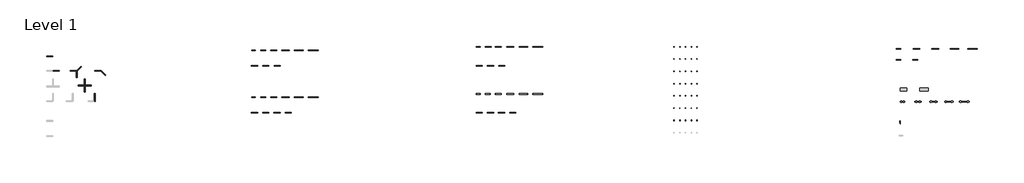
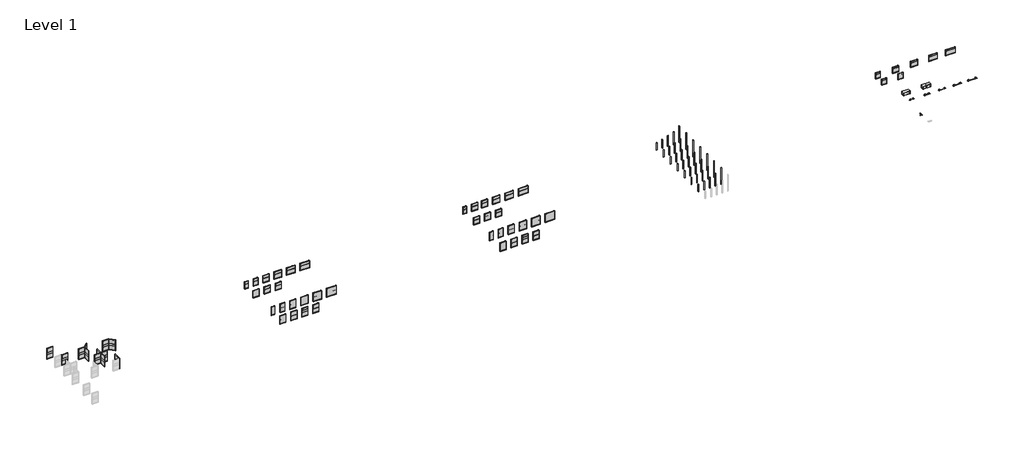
# One storey, part 3 of 3: 105 furniture elements.
"""IFC4 building model written with IfcOpenShell, lengths in millimetres."""

from ifc_helpers import new_model, si_unit, origin, place, context, project, spatial, transform, mapped, element, save
from components import furniture_18w_7ac7aad4, furniture_18w_59cc3c81, furniture_24w_fa96f4db, furniture_24w_426d5895, furniture_24w_0a600c24, furniture_24w_086fed48, furniture_24w_bf8f6a09, furniture_24w_27d8c9a8, furniture_30w_7d468a4d, furniture_30w_9d0055d7, furniture_30w_1f90e741, furniture_30w_02666bc1, furniture_30w_2dfa0810, furniture_30w_8b2cd19e, furniture_30w_2cda6988, furniture_30w_479ce9d4, furniture_30w_9c4a72f9, furniture_30w_512980de, furniture_30w_19db9eaf, furniture_30w_7b13c61c, furniture_30w_fa20d450, furniture_30w_daa77d19, furniture_30w_12dec47a, furniture_33w_c82f8737, furniture_36w_0b321206, furniture_36w_5fb26eae, furniture_36w_8ec4d774, furniture_36w_22e25451, furniture_38h_da254d0d, furniture_38h_7f22f2ad, furniture_38h_e55c0ff0, furniture_38h_13bdd9f9, furniture_38h_bad47e70, furniture_38h_panel_24w_276d43ed, furniture_38h_panel_30w_608f1e22, furniture_38h_panel_36w_7835546e, furniture_38h_panel_42w_ce5f0368, furniture_38h_panel_48w_99b88fe5, furniture_39w_d34182e1, furniture_42w_c59e6604, furniture_42w_ce28b0d0, furniture_42w_d7db1be3, furniture_42w_982e6336, furniture_45h_ac7019bf, furniture_45h_0da96548, furniture_45h_6bc77c7a, furniture_45h_3cfd8690, furniture_45h_894241af, furniture_48w_8803d16e, furniture_48w_716ff22a, furniture_48w_e3be6d56, furniture_55h_e53aab7c, furniture_55h_f8dee131, furniture_55h_7e80d0b0, furniture_55h_62b237f5, furniture_55h_673f513a, furniture_55h_9c691605, furniture_65h_424c1f49, furniture_65h_35de318b, furniture_65h_a30b0fb3, furniture_65h_c9d4cf2e, furniture_65h_cf35a967, furniture_86h_a120e0e9, furniture_86h_3fd3b045, furniture_86h_737b5e99, furniture_86h_5dbdb53e, furniture_86h_f72391fd, on_module_cantilever_b85a96c2

model = new_model("IFC4")

# Units and contexts
model_context = context("Model", 3, world=origin())
ifc_project = project(units=[si_unit("LENGTHUNIT", "METRE", prefix="MILLI")], contexts=[model_context])

# Site, building, storey
site = spatial("IfcSite", under=ifc_project)
building = spatial("IfcBuilding", under=site)
storey = spatial("IfcBuildingStorey", under=building, Name="Level 1", Elevation=0.0)

# Furniture
placement = place(None, origin())
furniture_18w_shape = furniture_18w_7ac7aad4(model_context)
element("IfcFurniture", 1, ObjectType="Steelcase - Montage - Frame - 38H - Enhanced Monolithic - Base Cavity : 18W", at=placement, inside=storey, context=model_context, shape_type="MappedRepresentation", body=[
    mapped(furniture_18w_shape, transform((12176.3660688, 9286.8314495, 0.0), x_axis=(1.0, 0.0, 0.0), y_axis=(0.0, 1.0, 0.0), z_axis=(0.0, 0.0, 1.0))),
])
furniture_18w_2_shape = furniture_18w_59cc3c81(model_context)
element("IfcFurniture", 2, ObjectType="Steelcase - Montage - Frame - 45H - Enhanced Monolithic - Base Cavity : 18W", at=placement, inside=storey, context=model_context, shape_type="MappedRepresentation", body=[
    mapped(furniture_18w_2_shape, transform((12176.3660688, 3466.1588827, 0.0), x_axis=(1.0, 0.0, 0.0), y_axis=(0.0, 1.0, 0.0), z_axis=(0.0, 0.0, 1.0))),
])
element("IfcFurniture", 3, ObjectType="Steelcase - Montage - Frame - 38H - Enhanced Standard - Base Cavity : 18W", at=placement, inside=storey, context=model_context, shape_type="MappedRepresentation", body=[
    mapped(furniture_18w_shape, transform((39962.2165559, 9693.2314495, 0.0), x_axis=(1.0, 0.0, 0.0), y_axis=(0.0, 1.0, 0.0), z_axis=(0.0, 0.0, 1.0))),
])
element("IfcFurniture", 4, ObjectType="Steelcase - Montage - Frame - 45H - Enhanced Standard - Base Cavity : 18W", at=placement, inside=storey, context=model_context, shape_type="MappedRepresentation", body=[
    mapped(furniture_18w_2_shape, transform((39962.2165559, 3872.5588827, 0.0), x_axis=(1.0, 0.0, 0.0), y_axis=(0.0, 1.0, 0.0), z_axis=(0.0, 0.0, 1.0))),
])
furniture_24w_shape = furniture_24w_fa96f4db(model_context)
element("IfcFurniture", 5, ObjectType="Steelcase - Montage - Frame - 31H - Enhanced Standard - Base Cavity : 24W", at=placement, inside=storey, context=model_context, shape_type="MappedRepresentation", body=[
    mapped(furniture_24w_shape, transform((93954.9127957, 8116.707023, 0.0), x_axis=(1.0, 0.0, 0.0), y_axis=(0.0, 1.0, 0.0), z_axis=(0.0, 0.0, 1.0))),
])
furniture_24w_2_shape = furniture_24w_426d5895(model_context)
element("IfcFurniture", 6, ObjectType="Steelcase - Montage - Frame - 38H - Enhanced Standard - Base Cavity : 24W", at=placement, inside=storey, context=model_context, shape_type="MappedRepresentation", body=[
    mapped(furniture_24w_2_shape, transform((41054.4165559, 9693.2314495, 0.0), x_axis=(1.0, 0.0, 0.0), y_axis=(0.0, 1.0, 0.0), z_axis=(0.0, 0.0, 1.0))),
])
furniture_24w_3_shape = furniture_24w_0a600c24(model_context)
element("IfcFurniture", 7, ObjectType="Steelcase - Montage - Frame - 38H - Enhanced Monolithic - Base Cavity : 24W", at=placement, inside=storey, context=model_context, shape_type="MappedRepresentation", body=[
    mapped(furniture_24w_3_shape, transform((13268.5660688, 9286.8314495, 0.0), x_axis=(1.0, 0.0, 0.0), y_axis=(0.0, 1.0, 0.0), z_axis=(0.0, 0.0, 1.0))),
])
furniture_24w_4_shape = furniture_24w_086fed48(model_context)
element("IfcFurniture", 8, ObjectType="Steelcase - Montage - Frame - 45H - Enhanced Monolithic - Base Cavity : 24W", at=placement, inside=storey, context=model_context, shape_type="MappedRepresentation", body=[
    mapped(furniture_24w_4_shape, transform((13268.5660688, 3466.1588827, 0.0), x_axis=(1.0, 0.0, 0.0), y_axis=(0.0, 1.0, 0.0), z_axis=(0.0, 0.0, 1.0))),
])
furniture_24w_5_shape = furniture_24w_bf8f6a09(model_context)
element("IfcFurniture", 9, ObjectType="Steelcase - Montage - Frame - 55H - Enhanced Monolithic - Base Cavity : 24W", at=placement, inside=storey, context=model_context, shape_type="MappedRepresentation", body=[
    mapped(furniture_24w_5_shape, transform((-7250.2163448, 2998.6070245, 0.0), x_axis=(0.0, 1.0, 0.0), y_axis=(-1.0, 0.0, 0.0), z_axis=(0.0, 0.0, 1.0))),
])
element("IfcFurniture", 10, ObjectType="Steelcase - Montage - Frame - 45H - Enhanced Standard - Base Cavity : 24W", at=placement, inside=storey, context=model_context, shape_type="MappedRepresentation", body=[
    mapped(furniture_24w_4_shape, transform((41054.4165559, 3872.5588827, 0.0), x_axis=(1.0, 0.0, 0.0), y_axis=(0.0, 1.0, 0.0), z_axis=(0.0, 0.0, 1.0))),
])
furniture_24w_6_shape = furniture_24w_27d8c9a8(model_context)
element("IfcFurniture", 11, ObjectType="Steelcase - Montage - Frame - 31H - Enhanced Standard - Base Cavity : 24W", at=placement, inside=storey, context=model_context, shape_type="MappedRepresentation", body=[
    mapped(furniture_24w_6_shape, transform((91872.1127957, 9462.907023, 0.0), x_axis=(1.0, 0.0, 0.0), y_axis=(0.0, 1.0, 0.0), z_axis=(0.0, 0.0, 1.0))),
])
element("IfcFurniture", 12, ObjectType="Steelcase - Montage - Frame - 31H - Enhanced Standard - Base Cavity : 24W", at=placement, inside=storey, context=model_context, shape_type="MappedRepresentation", body=[
    mapped(furniture_24w_6_shape, transform((91872.1127957, 8116.707023, 0.0), x_axis=(1.0, 0.0, 0.0), y_axis=(0.0, 1.0, 0.0), z_axis=(0.0, 0.0, 1.0))),
])
furniture_30w_shape = furniture_30w_7d468a4d(model_context)
element("IfcFurniture", 13, ObjectType="Steelcase - Montage - Frame - 45H - Enhanced Monolithic - Base Cavity : 30W", at=placement, inside=storey, context=model_context, shape_type="MappedRepresentation", body=[
    mapped(furniture_30w_shape, transform((14513.1660688, 3466.1588827, 0.0), x_axis=(1.0, 0.0, 0.0), y_axis=(0.0, 1.0, 0.0), z_axis=(0.0, 0.0, 1.0))),
])
element("IfcFurniture", 14, ObjectType="Steelcase - Montage - Frame - 45H - Enhanced Monolithic - Base Cavity : 30W", at=placement, inside=storey, context=model_context, shape_type="MappedRepresentation", body=[
    mapped(furniture_30w_shape, transform((12144.4251783, 1547.9903308, 0.0), x_axis=(1.0, 0.0, 0.0), y_axis=(0.0, 1.0, 0.0), z_axis=(0.0, 0.0, 1.0))),
])
furniture_30w_2_shape = furniture_30w_9d0055d7(model_context)
element("IfcFurniture", 15, ObjectType="Steelcase - Montage - Frame - 45H - Enhanced Monolithic - Base Cavity : 30W", at=placement, inside=storey, context=model_context, shape_type="MappedRepresentation", body=[
    mapped(furniture_30w_2_shape, transform((14923.8376088, 1547.9903308, 0.0), x_axis=(1.0, 0.0, 0.0), y_axis=(0.0, 1.0, 0.0), z_axis=(0.0, 0.0, 1.0))),
])
furniture_30w_3_shape = furniture_30w_1f90e741(model_context)
element("IfcFurniture", 16, ObjectType="Steelcase - Montage - Frame - 45H - Enhanced Monolithic - Base Cavity : 30W", at=placement, inside=storey, context=model_context, shape_type="MappedRepresentation", body=[
    mapped(furniture_30w_3_shape, transform((16306.2500393, 1547.9903308, 0.0), x_axis=(1.0, 0.0, 0.0), y_axis=(0.0, 1.0, 0.0), z_axis=(0.0, 0.0, 1.0))),
])
furniture_30w_4_shape = furniture_30w_02666bc1(model_context)
element("IfcFurniture", 17, ObjectType="Steelcase - Montage - Frame - 38H - Enhanced Monolithic - Base Cavity : 30W", at=placement, inside=storey, context=model_context, shape_type="MappedRepresentation", body=[
    mapped(furniture_30w_4_shape, transform((12144.4251783, 7368.6628976, 0.0), x_axis=(1.0, 0.0, 0.0), y_axis=(0.0, 1.0, 0.0), z_axis=(0.0, 0.0, 1.0))),
])
furniture_30w_5_shape = furniture_30w_2dfa0810(model_context)
element("IfcFurniture", 18, ObjectType="Steelcase - Montage - Frame - 38H - Enhanced Monolithic - Base Cavity : 30W", at=placement, inside=storey, context=model_context, shape_type="MappedRepresentation", body=[
    mapped(furniture_30w_5_shape, transform((13541.4251783, 7368.6628976, 0.0), x_axis=(1.0, 0.0, 0.0), y_axis=(0.0, 1.0, 0.0), z_axis=(0.0, 0.0, 1.0))),
])
furniture_30w_6_shape = furniture_30w_8b2cd19e(model_context)
element("IfcFurniture", 19, ObjectType="Steelcase - Montage - Frame - 38H - Enhanced Monolithic - Base Cavity : 30W", at=placement, inside=storey, context=model_context, shape_type="MappedRepresentation", body=[
    mapped(furniture_30w_6_shape, transform((14938.4251783, 7368.6628976, 0.0), x_axis=(1.0, 0.0, 0.0), y_axis=(0.0, 1.0, 0.0), z_axis=(0.0, 0.0, 1.0))),
])
furniture_30w_7_shape = furniture_30w_2cda6988(model_context)
element("IfcFurniture", 20, ObjectType="Steelcase - Montage - Frame - 38H - Enhanced Standard - Base Cavity : 30W", at=placement, inside=storey, context=model_context, shape_type="MappedRepresentation", body=[
    mapped(furniture_30w_7_shape, transform((39930.2756654, 7368.6628976, 0.0), x_axis=(1.0, 0.0, 0.0), y_axis=(0.0, 1.0, 0.0), z_axis=(0.0, 0.0, 1.0))),
])
furniture_30w_8_shape = furniture_30w_479ce9d4(model_context)
element("IfcFurniture", 21, ObjectType="Steelcase - Montage - Frame - 38H - Enhanced Standard - Base Cavity : 30W", at=placement, inside=storey, context=model_context, shape_type="MappedRepresentation", body=[
    mapped(furniture_30w_8_shape, transform((41327.2756654, 7368.6628976, 0.0), x_axis=(1.0, 0.0, 0.0), y_axis=(0.0, 1.0, 0.0), z_axis=(0.0, 0.0, 1.0))),
])
element("IfcFurniture", 22, ObjectType="Steelcase - Montage - Frame - 38H - Enhanced Standard - Base Cavity : 30W", at=placement, inside=storey, context=model_context, shape_type="MappedRepresentation", body=[
    mapped(furniture_24w_2_shape, transform((42299.0165559, 9693.2314495, 0.0), x_axis=(1.0, 0.0, 0.0), y_axis=(0.0, 1.0, 0.0), z_axis=(0.0, 0.0, 1.0))),
])
element("IfcFurniture", 23, ObjectType="Steelcase - Montage - Frame - 45H - Enhanced Standard - Base Cavity : 30W", at=placement, inside=storey, context=model_context, shape_type="MappedRepresentation", body=[
    mapped(furniture_30w_shape, transform((39930.2756654, 1547.9903308, 0.0), x_axis=(1.0, 0.0, 0.0), y_axis=(0.0, 1.0, 0.0), z_axis=(0.0, 0.0, 1.0))),
])
element("IfcFurniture", 24, ObjectType="Steelcase - Montage - Frame - 45H - Enhanced Standard - Base Cavity : 30W", at=placement, inside=storey, context=model_context, shape_type="MappedRepresentation", body=[
    mapped(furniture_30w_shape, transform((42299.0165559, 3872.5588827, 0.0), x_axis=(1.0, 0.0, 0.0), y_axis=(0.0, 1.0, 0.0), z_axis=(0.0, 0.0, 1.0))),
])
furniture_30w_9_shape = furniture_30w_9c4a72f9(model_context)
element("IfcFurniture", 25, ObjectType="Steelcase - Montage - Frame - 45H - Enhanced Standard - Base Cavity : 30W", at=placement, inside=storey, context=model_context, shape_type="MappedRepresentation", body=[
    mapped(furniture_30w_9_shape, transform((41327.2756654, 1547.9903308, 0.0), x_axis=(1.0, 0.0, 0.0), y_axis=(0.0, 1.0, 0.0), z_axis=(0.0, 0.0, 1.0))),
])
furniture_30w_10_shape = furniture_30w_512980de(model_context)
element("IfcFurniture", 26, ObjectType="Steelcase - Montage - Frame - 45H - Enhanced Standard - Base Cavity : 30W", at=placement, inside=storey, context=model_context, shape_type="MappedRepresentation", body=[
    mapped(furniture_30w_10_shape, transform((42695.7006654, 1547.9903308, 0.0), x_axis=(1.0, 0.0, 0.0), y_axis=(0.0, 1.0, 0.0), z_axis=(0.0, 0.0, 1.0))),
])
element("IfcFurniture", 27, ObjectType="Steelcase - Montage - Frame - 45H - Enhanced Standard - Base Cavity : 30W", at=placement, inside=storey, context=model_context, shape_type="MappedRepresentation", body=[
    mapped(furniture_30w_3_shape, transform((44092.7006654, 1547.9903308, 0.0), x_axis=(1.0, 0.0, 0.0), y_axis=(0.0, 1.0, 0.0), z_axis=(0.0, 0.0, 1.0))),
])
furniture_30w_11_shape = furniture_30w_19db9eaf(model_context)
element("IfcFurniture", 28, ObjectType="Steelcase - Montage - Frame - 38H - Enhanced Monolithic - Base Cavity : 30W", at=placement, inside=storey, context=model_context, shape_type="MappedRepresentation", body=[
    mapped(furniture_30w_11_shape, transform((14513.1660688, 9286.8314495, 0.0), x_axis=(1.0, 0.0, 0.0), y_axis=(0.0, 1.0, 0.0), z_axis=(0.0, 0.0, 1.0))),
])
furniture_30w_12_shape = furniture_30w_7b13c61c(model_context)
element("IfcFurniture", 29, ObjectType="Steelcase - Montage - Frame - 45H - Enhanced Monolithic - Base Cavity : 30W", at=placement, inside=storey, context=model_context, shape_type="MappedRepresentation", body=[
    mapped(furniture_30w_12_shape, transform((13541.4251783, 1547.9903308, 0.0), x_axis=(1.0, 0.0, 0.0), y_axis=(0.0, 1.0, 0.0), z_axis=(0.0, 0.0, 1.0))),
])
furniture_30w_13_shape = furniture_30w_fa20d450(model_context)
element("IfcFurniture", 30, ObjectType="Steelcase - Montage - Frame - 55H - Enhanced Monolithic - Base Cavity : 30W", at=placement, inside=storey, context=model_context, shape_type="MappedRepresentation", body=[
    mapped(furniture_30w_13_shape, transform((-12368.3163392, 6719.707023, 0.0), x_axis=(1.0, 0.0, 0.0), y_axis=(0.0, 1.0, 0.0), z_axis=(0.0, 0.0, 1.0))),
])
element("IfcFurniture", 31, ObjectType="Steelcase - Montage - Frame - 55H - Enhanced Monolithic - Base Cavity : 30W", at=placement, inside=storey, context=model_context, shape_type="MappedRepresentation", body=[
    mapped(furniture_30w_13_shape, transform((-10265.7679769, 6719.707023, 0.0), x_axis=(1.0, 0.0, 0.0), y_axis=(0.0, 1.0, 0.0), z_axis=(0.0, 0.0, 1.0))),
])
element("IfcFurniture", 32, ObjectType="Steelcase - Montage - Frame - 55H - Enhanced Monolithic - Base Cavity : 30W", at=placement, inside=storey, context=model_context, shape_type="MappedRepresentation", body=[
    mapped(furniture_30w_13_shape, transform((-9465.6679784, 5919.6043933, 0.0), x_axis=(0.0, 1.0, 0.0), y_axis=(-1.0, 0.0, 0.0), z_axis=(0.0, 0.0, 1.0))),
])
element("IfcFurniture", 33, ObjectType="Steelcase - Montage - Frame - 55H - Enhanced Monolithic - Base Cavity : 30W", at=placement, inside=storey, context=model_context, shape_type="MappedRepresentation", body=[
    mapped(furniture_30w_13_shape, transform((-9454.6003521, 6730.8617685, 0.0), x_axis=(0.7071067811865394, 0.7071067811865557, 0.0), y_axis=(-0.7071067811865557, 0.7071067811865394, 0.0), z_axis=(0.0, 0.0, 1.0))),
])
element("IfcFurniture", 34, ObjectType="Steelcase - Montage - Frame - 55H - Enhanced Monolithic - Base Cavity : 30W", at=placement, inside=storey, context=model_context, shape_type="MappedRepresentation", body=[
    mapped(furniture_30w_13_shape, transform((-9275.1706051, 4923.6475277, 0.0), x_axis=(1.0, 0.0, 0.0), y_axis=(0.0, 1.0, 0.0), z_axis=(0.0, 0.0, 1.0))),
])
element("IfcFurniture", 35, ObjectType="Steelcase - Montage - Frame - 55H - Enhanced Monolithic - Base Cavity : 30W", at=placement, inside=storey, context=model_context, shape_type="MappedRepresentation", body=[
    mapped(furniture_30w_13_shape, transform((-8475.0706066, 4961.7475292, 0.0), x_axis=(0.0, 1.0, 0.0), y_axis=(-1.0, 0.0, 0.0), z_axis=(0.0, 0.0, 1.0))),
])
element("IfcFurniture", 36, ObjectType="Steelcase - Montage - Frame - 55H - Enhanced Monolithic - Base Cavity : 30W", at=placement, inside=storey, context=model_context, shape_type="MappedRepresentation", body=[
    mapped(furniture_30w_13_shape, transform((-8436.970601, 4923.6475277, 0.0), x_axis=(1.0, 0.0, 0.0), y_axis=(0.0, 1.0, 0.0), z_axis=(0.0, 0.0, 1.0))),
])
element("IfcFurniture", 37, ObjectType="Steelcase - Montage - Frame - 55H - Enhanced Monolithic - Base Cavity : 30W", at=placement, inside=storey, context=model_context, shape_type="MappedRepresentation", body=[
    mapped(furniture_30w_13_shape, transform((-8475.0706066, 4123.5475292, 0.0), x_axis=(0.0, 1.0, 0.0), y_axis=(-1.0, 0.0, 0.0), z_axis=(0.0, 0.0, 1.0))),
])
element("IfcFurniture", 38, ObjectType="Steelcase - Montage - Frame - 55H - Enhanced Monolithic - Base Cavity : 30W", at=placement, inside=storey, context=model_context, shape_type="MappedRepresentation", body=[
    mapped(furniture_30w_13_shape, transform((-13206.5163433, 8548.507023, 0.0), x_axis=(1.0, 0.0, 0.0), y_axis=(0.0, 1.0, 0.0), z_axis=(0.0, 0.0, 1.0))),
])
element("IfcFurniture", 39, ObjectType="Steelcase - Montage - Frame - 55H - Enhanced Monolithic - Base Cavity : 30W", at=placement, inside=storey, context=model_context, shape_type="MappedRepresentation", body=[
    mapped(furniture_30w_13_shape, transform((-7217.7679769, 6719.707023, 0.0), x_axis=(1.0, 0.0, 0.0), y_axis=(0.0, 1.0, 0.0), z_axis=(0.0, 0.0, 1.0))),
])
element("IfcFurniture", 40, ObjectType="Steelcase - Montage - Frame - 55H - Enhanced Monolithic - Base Cavity : 30W", at=placement, inside=storey, context=model_context, shape_type="MappedRepresentation", body=[
    mapped(furniture_30w_13_shape, transform((-5890.0118424, 6169.7297933, 0.0), x_axis=(-0.7071067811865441, 0.707106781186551, 0.0), y_axis=(-0.707106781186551, -0.7071067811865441, 0.0), z_axis=(0.0, 0.0, 1.0))),
])
furniture_30w_14_shape = furniture_30w_daa77d19(model_context)
element("IfcFurniture", 41, ObjectType="Steelcase - Montage - Frame - 38H - Enhanced Standard - Base Cavity : 30W", at=placement, inside=storey, context=model_context, shape_type="MappedRepresentation", body=[
    mapped(furniture_30w_14_shape, transform((42724.2756654, 7368.6628976, 0.0), x_axis=(1.0, 0.0, 0.0), y_axis=(0.0, 1.0, 0.0), z_axis=(0.0, 0.0, 1.0))),
])
furniture_30w_15_shape = furniture_30w_12dec47a(model_context)
element("IfcFurniture", 42, ObjectType="Steelcase - Montage - Frame - 31H - Enhanced Standard - Base Cavity : 30W", at=placement, inside=storey, context=model_context, shape_type="MappedRepresentation", body=[
    mapped(furniture_30w_15_shape, transform((94031.1127957, 9462.907023, 0.0), x_axis=(1.0, 0.0, 0.0), y_axis=(0.0, 1.0, 0.0), z_axis=(0.0, 0.0, 1.0))),
])
furniture_33w_shape = furniture_33w_c82f8737(model_context)
element("IfcFurniture", 43, ObjectType="Steelcase - Montage - Healthcare Components - Patient Chart Box : 33W", at=placement, inside=storey, context=model_context, shape_type="MappedRepresentation", body=[
    mapped(furniture_33w_shape, transform((92295.9117957, 4421.0070245, 0.0), x_axis=(1.0, 0.0, 0.0), y_axis=(0.0, 1.0, 0.0), z_axis=(0.0, 0.0, 1.0))),
])
furniture_36w_shape = furniture_36w_0b321206(model_context)
element("IfcFurniture", 44, ObjectType="Steelcase - Montage - Frame - 38H - Enhanced Monolithic - Base Cavity : 36W", at=placement, inside=storey, context=model_context, shape_type="MappedRepresentation", body=[
    mapped(furniture_36w_shape, transform((15910.1660688, 9286.8314495, 0.0), x_axis=(1.0, 0.0, 0.0), y_axis=(0.0, 1.0, 0.0), z_axis=(0.0, 0.0, 1.0))),
])
furniture_36w_2_shape = furniture_36w_5fb26eae(model_context)
element("IfcFurniture", 45, ObjectType="Steelcase - Montage - Frame - 45H - Enhanced Monolithic - Base Cavity : 36W", at=placement, inside=storey, context=model_context, shape_type="MappedRepresentation", body=[
    mapped(furniture_36w_2_shape, transform((15910.1660688, 3466.1588827, 0.0), x_axis=(1.0, 0.0, 0.0), y_axis=(0.0, 1.0, 0.0), z_axis=(0.0, 0.0, 1.0))),
])
furniture_36w_3_shape = furniture_36w_8ec4d774(model_context)
element("IfcFurniture", 46, ObjectType="Steelcase - Montage - Frame - 38H - Enhanced Standard - Base Cavity : 36W", at=placement, inside=storey, context=model_context, shape_type="MappedRepresentation", body=[
    mapped(furniture_36w_3_shape, transform((43696.0165559, 9693.2314495, 0.0), x_axis=(1.0, 0.0, 0.0), y_axis=(0.0, 1.0, 0.0), z_axis=(0.0, 0.0, 1.0))),
])
element("IfcFurniture", 47, ObjectType="Steelcase - Montage - Frame - 45H - Enhanced Standard - Base Cavity : 36W", at=placement, inside=storey, context=model_context, shape_type="MappedRepresentation", body=[
    mapped(furniture_36w_2_shape, transform((43696.0165559, 3872.5588827, 0.0), x_axis=(1.0, 0.0, 0.0), y_axis=(0.0, 1.0, 0.0), z_axis=(0.0, 0.0, 1.0))),
])
furniture_36w_4_shape = furniture_36w_22e25451(model_context)
element("IfcFurniture", 48, ObjectType="Steelcase - Montage - Frame - 31H - Enhanced Standard - Base Cavity : 36W", at=placement, inside=storey, context=model_context, shape_type="MappedRepresentation", body=[
    mapped(furniture_36w_4_shape, transform((96266.3127957, 9462.907023, 0.0), x_axis=(1.0, 0.0, 0.0), y_axis=(0.0, 1.0, 0.0), z_axis=(0.0, 0.0, 1.0))),
])
furniture_38h_shape = furniture_38h_da254d0d(model_context)
element("IfcFurniture", 49, ObjectType="Steelcase - Montage - Junction - I - Same-Height : 38H", at=placement, inside=storey, context=model_context, shape_type="MappedRepresentation", body=[
    mapped(furniture_38h_shape, transform((63920.4376088, 9729.6070245, 0.0), x_axis=(1.0, 0.0, 0.0), y_axis=(0.0, 1.0, 0.0), z_axis=(0.0, 0.0, 1.0))),
])
furniture_38h_2_shape = furniture_38h_7f22f2ad(model_context)
element("IfcFurniture", 50, ObjectType="Steelcase - Montage - Junction - L Chamfered- Same-Height : 38H", at=placement, inside=storey, context=model_context, shape_type="MappedRepresentation", body=[
    mapped(furniture_38h_2_shape, transform((63920.4376088, 8205.6070245, 0.0), x_axis=(1.0, 0.0, 0.0), y_axis=(0.0, 1.0, 0.0), z_axis=(0.0, 0.0, 1.0))),
])
furniture_38h_3_shape = furniture_38h_e55c0ff0(model_context)
element("IfcFurniture", 51, ObjectType="Steelcase - Montage - Junction - L Radius - Same-Height : 38H", at=placement, inside=storey, context=model_context, shape_type="MappedRepresentation", body=[
    mapped(furniture_38h_3_shape, transform((63920.4376088, 6681.6070245, 0.0), x_axis=(1.0, 0.0, 0.0), y_axis=(0.0, 1.0, 0.0), z_axis=(0.0, 0.0, 1.0))),
])
furniture_38h_4_shape = furniture_38h_13bdd9f9(model_context)
element("IfcFurniture", 52, ObjectType="Steelcase - Montage - Junction - L Square - Same-Height : 38H", at=placement, inside=storey, context=model_context, shape_type="MappedRepresentation", body=[
    mapped(furniture_38h_4_shape, transform((63920.4376088, 5157.6070245, 0.0), x_axis=(1.0, 0.0, 0.0), y_axis=(0.0, 1.0, 0.0), z_axis=(0.0, 0.0, 1.0))),
])
element("IfcFurniture", 53, ObjectType="Steelcase - Montage - Junction - T - Same-Height : 38H", at=placement, inside=storey, context=model_context, shape_type="MappedRepresentation", body=[
    mapped(furniture_38h_shape, transform((63920.4376088, 3633.6070245, 0.0), x_axis=(1.0, 0.0, 0.0), y_axis=(0.0, 1.0, 0.0), z_axis=(0.0, 0.0, 1.0))),
])
furniture_38h_5_shape = furniture_38h_bad47e70(model_context)
element("IfcFurniture", 54, ObjectType="Steelcase - Montage - Junction - V - Same-Height : 38H", at=placement, inside=storey, context=model_context, shape_type="MappedRepresentation", body=[
    mapped(furniture_38h_5_shape, transform((63920.4376088, 2109.6070245, 0.0), x_axis=(1.0, 0.0, 0.0), y_axis=(0.0, 1.0, 0.0), z_axis=(0.0, 0.0, 1.0))),
])
element("IfcFurniture", 55, ObjectType="Steelcase - Montage - Junction - X - Same-Height : 38H", at=placement, inside=storey, context=model_context, shape_type="MappedRepresentation", body=[
    mapped(furniture_38h_shape, transform((63920.4376088, 585.6070245, 0.0), x_axis=(1.0, 0.0, 0.0), y_axis=(0.0, 1.0, 0.0), z_axis=(0.0, 0.0, 1.0))),
])
furniture_38h_panel_24w_shape = furniture_38h_panel_24w_276d43ed(model_context)
element("IfcFurniture", 56, ObjectType="Steelcase - Montage - Healthcare Components - Upmount Transaction Top Brackets : 38H Panel - 24W", at=placement, inside=storey, context=model_context, shape_type="MappedRepresentation", body=[
    mapped(furniture_38h_panel_24w_shape, transform((92480.6879827, 2922.4070245, 0.0), x_axis=(1.0, 0.0, 0.0), y_axis=(0.0, 1.0, 0.0), z_axis=(0.0, 0.0, 1.0))),
])
furniture_38h_panel_30w_shape = furniture_38h_panel_30w_608f1e22(model_context)
element("IfcFurniture", 57, ObjectType="Steelcase - Montage - Healthcare Components - Upmount Transaction Top Brackets : 38H Panel - 30W", at=placement, inside=storey, context=model_context, shape_type="MappedRepresentation", body=[
    mapped(furniture_38h_panel_30w_shape, transform((94323.2127957, 2922.4070245, 0.0), x_axis=(1.0, 0.0, 0.0), y_axis=(0.0, 1.0, 0.0), z_axis=(0.0, 0.0, 1.0))),
])
furniture_38h_panel_36w_shape = furniture_38h_panel_36w_7835546e(model_context)
element("IfcFurniture", 58, ObjectType="Steelcase - Montage - Healthcare Components - Upmount Transaction Top Brackets : 38H Panel - 36W", at=placement, inside=storey, context=model_context, shape_type="MappedRepresentation", body=[
    mapped(furniture_38h_panel_36w_shape, transform((96152.0127957, 2922.4070245, 0.0), x_axis=(1.0, 0.0, 0.0), y_axis=(0.0, 1.0, 0.0), z_axis=(0.0, 0.0, 1.0))),
])
furniture_38h_panel_42w_shape = furniture_38h_panel_42w_ce5f0368(model_context)
element("IfcFurniture", 59, ObjectType="Steelcase - Montage - Healthcare Components - Upmount Transaction Top Brackets : 38H Panel - 42W", at=placement, inside=storey, context=model_context, shape_type="MappedRepresentation", body=[
    mapped(furniture_38h_panel_42w_shape, transform((97980.8127957, 2922.4070245, 0.0), x_axis=(1.0, 0.0, 0.0), y_axis=(0.0, 1.0, 0.0), z_axis=(0.0, 0.0, 1.0))),
])
furniture_38h_panel_48w_shape = furniture_38h_panel_48w_99b88fe5(model_context)
element("IfcFurniture", 60, ObjectType="Steelcase - Montage - Healthcare Components - Upmount Transaction Top Brackets : 38H Panel - 48W", at=placement, inside=storey, context=model_context, shape_type="MappedRepresentation", body=[
    mapped(furniture_38h_panel_48w_shape, transform((99809.6127957, 2922.4070245, 0.0), x_axis=(1.0, 0.0, 0.0), y_axis=(0.0, 1.0, 0.0), z_axis=(0.0, 0.0, 1.0))),
])
furniture_39w_shape = furniture_39w_d34182e1(model_context)
element("IfcFurniture", 61, ObjectType="Steelcase - Montage - Healthcare Components - Patient Chart Box : 39W", at=placement, inside=storey, context=model_context, shape_type="MappedRepresentation", body=[
    mapped(furniture_39w_shape, transform((94835.9117957, 4421.0070245, 0.0), x_axis=(1.0, 0.0, 0.0), y_axis=(0.0, 1.0, 0.0), z_axis=(0.0, 0.0, 1.0))),
])
furniture_42w_shape = furniture_42w_c59e6604(model_context)
element("IfcFurniture", 62, ObjectType="Steelcase - Montage - Frame - 38H - Enhanced Monolithic - Base Cavity : 42W", at=placement, inside=storey, context=model_context, shape_type="MappedRepresentation", body=[
    mapped(furniture_42w_shape, transform((17459.5660688, 9286.8314495, 0.0), x_axis=(1.0, 0.0, 0.0), y_axis=(0.0, 1.0, 0.0), z_axis=(0.0, 0.0, 1.0))),
])
furniture_42w_2_shape = furniture_42w_ce28b0d0(model_context)
element("IfcFurniture", 63, ObjectType="Steelcase - Montage - Frame - 45H - Enhanced Monolithic - Base Cavity : 42W", at=placement, inside=storey, context=model_context, shape_type="MappedRepresentation", body=[
    mapped(furniture_42w_2_shape, transform((17459.5660688, 3466.1588827, 0.0), x_axis=(1.0, 0.0, 0.0), y_axis=(0.0, 1.0, 0.0), z_axis=(0.0, 0.0, 1.0))),
])
furniture_42w_3_shape = furniture_42w_d7db1be3(model_context)
element("IfcFurniture", 64, ObjectType="Steelcase - Montage - Frame - 38H - Enhanced Standard - Base Cavity : 42W", at=placement, inside=storey, context=model_context, shape_type="MappedRepresentation", body=[
    mapped(furniture_42w_3_shape, transform((45245.4165559, 9693.2314495, 0.0), x_axis=(1.0, 0.0, 0.0), y_axis=(0.0, 1.0, 0.0), z_axis=(0.0, 0.0, 1.0))),
])
element("IfcFurniture", 65, ObjectType="Steelcase - Montage - Frame - 45H - Enhanced Standard - Base Cavity : 42W", at=placement, inside=storey, context=model_context, shape_type="MappedRepresentation", body=[
    mapped(furniture_42w_2_shape, transform((45245.4165559, 3872.5588827, 0.0), x_axis=(1.0, 0.0, 0.0), y_axis=(0.0, 1.0, 0.0), z_axis=(0.0, 0.0, 1.0))),
])
furniture_42w_4_shape = furniture_42w_982e6336(model_context)
element("IfcFurniture", 66, ObjectType="Steelcase - Montage - Frame - 31H - Enhanced Standard - Base Cavity : 42W", at=placement, inside=storey, context=model_context, shape_type="MappedRepresentation", body=[
    mapped(furniture_42w_4_shape, transform((98589.3879827, 9462.907023, 0.0), x_axis=(1.0, 0.0, 0.0), y_axis=(0.0, 1.0, 0.0), z_axis=(0.0, 0.0, 1.0))),
])
furniture_45h_shape = furniture_45h_ac7019bf(model_context)
element("IfcFurniture", 67, ObjectType="Steelcase - Montage - Junction - I - Same-Height : 45H", at=placement, inside=storey, context=model_context, shape_type="MappedRepresentation", body=[
    mapped(furniture_45h_shape, transform((64631.6376088, 9729.6070245, 0.0), x_axis=(1.0, 0.0, 0.0), y_axis=(0.0, 1.0, 0.0), z_axis=(0.0, 0.0, 1.0))),
])
furniture_45h_2_shape = furniture_45h_0da96548(model_context)
element("IfcFurniture", 68, ObjectType="Steelcase - Montage - Junction - L Chamfered- Same-Height : 45H", at=placement, inside=storey, context=model_context, shape_type="MappedRepresentation", body=[
    mapped(furniture_45h_2_shape, transform((64631.6376088, 8205.6070245, 0.0), x_axis=(1.0, 0.0, 0.0), y_axis=(0.0, 1.0, 0.0), z_axis=(0.0, 0.0, 1.0))),
])
furniture_45h_3_shape = furniture_45h_6bc77c7a(model_context)
element("IfcFurniture", 69, ObjectType="Steelcase - Montage - Junction - L Radius - Same-Height : 45H", at=placement, inside=storey, context=model_context, shape_type="MappedRepresentation", body=[
    mapped(furniture_45h_3_shape, transform((64631.6376088, 6681.6070245, 0.0), x_axis=(1.0, 0.0, 0.0), y_axis=(0.0, 1.0, 0.0), z_axis=(0.0, 0.0, 1.0))),
])
furniture_45h_4_shape = furniture_45h_3cfd8690(model_context)
element("IfcFurniture", 70, ObjectType="Steelcase - Montage - Junction - L Square - Same-Height : 45H", at=placement, inside=storey, context=model_context, shape_type="MappedRepresentation", body=[
    mapped(furniture_45h_4_shape, transform((64631.6376088, 5157.6070245, 0.0), x_axis=(1.0, 0.0, 0.0), y_axis=(0.0, 1.0, 0.0), z_axis=(0.0, 0.0, 1.0))),
])
element("IfcFurniture", 71, ObjectType="Steelcase - Montage - Junction - T - Same-Height : 45H", at=placement, inside=storey, context=model_context, shape_type="MappedRepresentation", body=[
    mapped(furniture_45h_shape, transform((64631.6376088, 3633.6070245, 0.0), x_axis=(1.0, 0.0, 0.0), y_axis=(0.0, 1.0, 0.0), z_axis=(0.0, 0.0, 1.0))),
])
furniture_45h_5_shape = furniture_45h_894241af(model_context)
element("IfcFurniture", 72, ObjectType="Steelcase - Montage - Junction - V - Same-Height : 45H", at=placement, inside=storey, context=model_context, shape_type="MappedRepresentation", body=[
    mapped(furniture_45h_5_shape, transform((64631.6376088, 2109.6070245, 0.0), x_axis=(1.0, 0.0, 0.0), y_axis=(0.0, 1.0, 0.0), z_axis=(0.0, 0.0, 1.0))),
])
element("IfcFurniture", 73, ObjectType="Steelcase - Montage - Junction - X - Same-Height : 45H", at=placement, inside=storey, context=model_context, shape_type="MappedRepresentation", body=[
    mapped(furniture_45h_shape, transform((64631.6376088, 585.6070245, 0.0), x_axis=(1.0, 0.0, 0.0), y_axis=(0.0, 1.0, 0.0), z_axis=(0.0, 0.0, 1.0))),
])
furniture_48w_shape = furniture_48w_8803d16e(model_context)
element("IfcFurniture", 74, ObjectType="Steelcase - Montage - Frame - 31H - Enhanced Standard - Base Cavity : 48W", at=placement, inside=storey, context=model_context, shape_type="MappedRepresentation", body=[
    mapped(furniture_48w_shape, transform((100722.9879827, 9462.907023, 0.0), x_axis=(1.0, 0.0, 0.0), y_axis=(0.0, 1.0, 0.0), z_axis=(0.0, 0.0, 1.0))),
])
furniture_48w_2_shape = furniture_48w_716ff22a(model_context)
element("IfcFurniture", 75, ObjectType="Steelcase - Montage - Frame - 45H - Enhanced Monolithic - Base Cavity : 48W", at=placement, inside=storey, context=model_context, shape_type="MappedRepresentation", body=[
    mapped(furniture_48w_2_shape, transform((19161.3660688, 3466.1588827, 0.0), x_axis=(1.0, 0.0, 0.0), y_axis=(0.0, 1.0, 0.0), z_axis=(0.0, 0.0, 1.0))),
])
element("IfcFurniture", 76, ObjectType="Steelcase - Montage - Frame - 45H - Enhanced Standard - Base Cavity : 48W", at=placement, inside=storey, context=model_context, shape_type="MappedRepresentation", body=[
    mapped(furniture_48w_2_shape, transform((46947.2165559, 3872.5588827, 0.0), x_axis=(1.0, 0.0, 0.0), y_axis=(0.0, 1.0, 0.0), z_axis=(0.0, 0.0, 1.0))),
])
furniture_48w_3_shape = furniture_48w_e3be6d56(model_context)
element("IfcFurniture", 77, ObjectType="Steelcase - Montage - Frame - 38H - Enhanced Monolithic - Base Cavity : 48W", at=placement, inside=storey, context=model_context, shape_type="MappedRepresentation", body=[
    mapped(furniture_48w_3_shape, transform((19161.3660688, 9286.8314495, 0.0), x_axis=(1.0, 0.0, 0.0), y_axis=(0.0, 1.0, 0.0), z_axis=(0.0, 0.0, 1.0))),
])
element("IfcFurniture", 78, ObjectType="Steelcase - Montage - Frame - 38H - Enhanced Standard - Base Cavity : 48W", at=placement, inside=storey, context=model_context, shape_type="MappedRepresentation", body=[
    mapped(furniture_48w_3_shape, transform((46947.2165559, 9693.2314495, 0.0), x_axis=(1.0, 0.0, 0.0), y_axis=(0.0, 1.0, 0.0), z_axis=(0.0, 0.0, 1.0))),
])
furniture_55h_shape = furniture_55h_e53aab7c(model_context)
element("IfcFurniture", 79, ObjectType="Steelcase - Montage - Junction - I - Same-Height : 55H", at=placement, inside=storey, context=model_context, shape_type="MappedRepresentation", body=[
    mapped(furniture_55h_shape, transform((65342.8376088, 9729.6070245, 0.0), x_axis=(1.0, 0.0, 0.0), y_axis=(0.0, 1.0, 0.0), z_axis=(0.0, 0.0, 1.0))),
])
element("IfcFurniture", 80, ObjectType="Steelcase - Montage - Junction - I - Same-Height : 55H", at=placement, inside=storey, context=model_context, shape_type="MappedRepresentation", body=[
    mapped(furniture_55h_shape, transform((-12901.7163433, 6719.707023, 0.0), x_axis=(1.0, 0.0, 0.0), y_axis=(0.0, 1.0, 0.0), z_axis=(0.0, 0.0, 1.0))),
])
furniture_55h_2_shape = furniture_55h_f8dee131(model_context)
element("IfcFurniture", 81, ObjectType="Steelcase - Montage - Junction - L Chamfered- Same-Height : 55H", at=placement, inside=storey, context=model_context, shape_type="MappedRepresentation", body=[
    mapped(furniture_55h_2_shape, transform((65342.8376088, 8205.6070245, 0.0), x_axis=(1.0, 0.0, 0.0), y_axis=(0.0, 1.0, 0.0), z_axis=(0.0, 0.0, 1.0))),
])
furniture_55h_3_shape = furniture_55h_7e80d0b0(model_context)
element("IfcFurniture", 82, ObjectType="Steelcase - Montage - Junction - L Radius - Same-Height : 55H", at=placement, inside=storey, context=model_context, shape_type="MappedRepresentation", body=[
    mapped(furniture_55h_3_shape, transform((65342.8376088, 6681.6070245, 0.0), x_axis=(1.0, 0.0, 0.0), y_axis=(0.0, 1.0, 0.0), z_axis=(0.0, 0.0, 1.0))),
])
furniture_55h_4_shape = furniture_55h_62b237f5(model_context)
element("IfcFurniture", 83, ObjectType="Steelcase - Montage - Junction - L Square - Same-Height : 55H", at=placement, inside=storey, context=model_context, shape_type="MappedRepresentation", body=[
    mapped(furniture_55h_4_shape, transform((65342.8376088, 5157.6070245, 0.0), x_axis=(1.0, 0.0, 0.0), y_axis=(0.0, 1.0, 0.0), z_axis=(0.0, 0.0, 1.0))),
])
element("IfcFurniture", 84, ObjectType="Steelcase - Montage - Junction - L Square - Same-Height : 55H", at=placement, inside=storey, context=model_context, shape_type="MappedRepresentation", body=[
    mapped(furniture_55h_4_shape, transform((-7745.5163433, 2960.507023, 0.0), x_axis=(1.0, 0.0, 0.0), y_axis=(0.0, 1.0, 0.0), z_axis=(0.0, 0.0, 1.0))),
])
element("IfcFurniture", 85, ObjectType="Steelcase - Montage - Junction - T - Same-Height : 55H", at=placement, inside=storey, context=model_context, shape_type="MappedRepresentation", body=[
    mapped(furniture_55h_shape, transform((65342.8376088, 3633.6070245, 0.0), x_axis=(1.0, 0.0, 0.0), y_axis=(0.0, 1.0, 0.0), z_axis=(0.0, 0.0, 1.0))),
])
furniture_55h_5_shape = furniture_55h_673f513a(model_context)
element("IfcFurniture", 86, ObjectType="Steelcase - Montage - Junction - V - Same-Height : 55H", at=placement, inside=storey, context=model_context, shape_type="MappedRepresentation", body=[
    mapped(furniture_55h_5_shape, transform((65342.8376088, 2109.6070245, 0.0), x_axis=(1.0, 0.0, 0.0), y_axis=(0.0, 1.0, 0.0), z_axis=(0.0, 0.0, 1.0))),
])
element("IfcFurniture", 87, ObjectType="Steelcase - Montage - Junction - V - Same-Height : 55H", at=placement, inside=storey, context=model_context, shape_type="MappedRepresentation", body=[
    mapped(furniture_55h_5_shape, transform((-6912.9679769, 6719.7043948, 0.0), x_axis=(1.0, 0.0, 0.0), y_axis=(0.0, 1.0, 0.0), z_axis=(0.0, 0.0, 1.0))),
])
element("IfcFurniture", 88, ObjectType="Steelcase - Montage - Junction - X - Same-Height : 55H", at=placement, inside=storey, context=model_context, shape_type="MappedRepresentation", body=[
    mapped(furniture_55h_shape, transform((65342.8376088, 585.6070245, 0.0), x_axis=(1.0, 0.0, 0.0), y_axis=(0.0, 1.0, 0.0), z_axis=(0.0, 0.0, 1.0))),
])
element("IfcFurniture", 89, ObjectType="Steelcase - Montage - Junction - X - Same-Height : 55H", at=placement, inside=storey, context=model_context, shape_type="MappedRepresentation", body=[
    mapped(furniture_55h_shape, transform((-8970.3706051, 4923.6475277, 0.0), x_axis=(1.0, 0.0, 0.0), y_axis=(0.0, 1.0, 0.0), z_axis=(0.0, 0.0, 1.0))),
])
furniture_55h_6_shape = furniture_55h_9c691605(model_context)
element("IfcFurniture", 90, ObjectType="Steelcase - Montage - Junction - Y - Same-Height : 55H", at=placement, inside=storey, context=model_context, shape_type="MappedRepresentation", body=[
    mapped(furniture_55h_6_shape, transform((-9960.9679769, 6719.7043948, 0.0), x_axis=(1.0, 0.0, 0.0), y_axis=(0.0, 1.0, 0.0), z_axis=(0.0, 0.0, 1.0))),
])
furniture_65h_shape = furniture_65h_424c1f49(model_context)
element("IfcFurniture", 91, ObjectType="Steelcase - Montage - Junction - I - Same-Height : 65H", at=placement, inside=storey, context=model_context, shape_type="MappedRepresentation", body=[
    mapped(furniture_65h_shape, transform((66054.0376088, 9729.6070245, 0.0), x_axis=(1.0, 0.0, 0.0), y_axis=(0.0, 1.0, 0.0), z_axis=(0.0, 0.0, 1.0))),
])
furniture_65h_2_shape = furniture_65h_35de318b(model_context)
element("IfcFurniture", 92, ObjectType="Steelcase - Montage - Junction - L Chamfered- Same-Height : 65H", at=placement, inside=storey, context=model_context, shape_type="MappedRepresentation", body=[
    mapped(furniture_65h_2_shape, transform((66054.0376088, 8205.6070245, 0.0), x_axis=(1.0, 0.0, 0.0), y_axis=(0.0, 1.0, 0.0), z_axis=(0.0, 0.0, 1.0))),
])
furniture_65h_3_shape = furniture_65h_a30b0fb3(model_context)
element("IfcFurniture", 93, ObjectType="Steelcase - Montage - Junction - L Radius - Same-Height : 65H", at=placement, inside=storey, context=model_context, shape_type="MappedRepresentation", body=[
    mapped(furniture_65h_3_shape, transform((66054.0376088, 6681.6070245, 0.0), x_axis=(1.0, 0.0, 0.0), y_axis=(0.0, 1.0, 0.0), z_axis=(0.0, 0.0, 1.0))),
])
furniture_65h_4_shape = furniture_65h_c9d4cf2e(model_context)
element("IfcFurniture", 94, ObjectType="Steelcase - Montage - Junction - L Square - Same-Height : 65H", at=placement, inside=storey, context=model_context, shape_type="MappedRepresentation", body=[
    mapped(furniture_65h_4_shape, transform((66054.0376088, 5157.6070245, 0.0), x_axis=(1.0, 0.0, 0.0), y_axis=(0.0, 1.0, 0.0), z_axis=(0.0, 0.0, 1.0))),
])
element("IfcFurniture", 95, ObjectType="Steelcase - Montage - Junction - T - Same-Height : 65H", at=placement, inside=storey, context=model_context, shape_type="MappedRepresentation", body=[
    mapped(furniture_65h_shape, transform((66054.0376088, 3633.6070245, 0.0), x_axis=(1.0, 0.0, 0.0), y_axis=(0.0, 1.0, 0.0), z_axis=(0.0, 0.0, 1.0))),
])
furniture_65h_5_shape = furniture_65h_cf35a967(model_context)
element("IfcFurniture", 96, ObjectType="Steelcase - Montage - Junction - V - Same-Height : 65H", at=placement, inside=storey, context=model_context, shape_type="MappedRepresentation", body=[
    mapped(furniture_65h_5_shape, transform((66054.0376088, 2109.6070245, 0.0), x_axis=(1.0, 0.0, 0.0), y_axis=(0.0, 1.0, 0.0), z_axis=(0.0, 0.0, 1.0))),
])
element("IfcFurniture", 97, ObjectType="Steelcase - Montage - Junction - X - Same-Height : 65H", at=placement, inside=storey, context=model_context, shape_type="MappedRepresentation", body=[
    mapped(furniture_65h_shape, transform((66054.0376088, 585.6070245, 0.0), x_axis=(1.0, 0.0, 0.0), y_axis=(0.0, 1.0, 0.0), z_axis=(0.0, 0.0, 1.0))),
])
furniture_86h_shape = furniture_86h_a120e0e9(model_context)
element("IfcFurniture", 98, ObjectType="Steelcase - Montage - Junction - I - Same-Height : 86H", at=placement, inside=storey, context=model_context, shape_type="MappedRepresentation", body=[
    mapped(furniture_86h_shape, transform((66765.2376088, 9729.6070245, 0.0), x_axis=(1.0, 0.0, 0.0), y_axis=(0.0, 1.0, 0.0), z_axis=(0.0, 0.0, 1.0))),
])
furniture_86h_2_shape = furniture_86h_3fd3b045(model_context)
element("IfcFurniture", 99, ObjectType="Steelcase - Montage - Junction - L Chamfered- Same-Height : 86H", at=placement, inside=storey, context=model_context, shape_type="MappedRepresentation", body=[
    mapped(furniture_86h_2_shape, transform((66765.2376088, 8205.6070245, 0.0), x_axis=(1.0, 0.0, 0.0), y_axis=(0.0, 1.0, 0.0), z_axis=(0.0, 0.0, 1.0))),
])
furniture_86h_3_shape = furniture_86h_737b5e99(model_context)
element("IfcFurniture", 100, ObjectType="Steelcase - Montage - Junction - L Radius - Same-Height : 86H", at=placement, inside=storey, context=model_context, shape_type="MappedRepresentation", body=[
    mapped(furniture_86h_3_shape, transform((66765.2376088, 6681.6070245, 0.0), x_axis=(1.0, 0.0, 0.0), y_axis=(0.0, 1.0, 0.0), z_axis=(0.0, 0.0, 1.0))),
])
furniture_86h_4_shape = furniture_86h_5dbdb53e(model_context)
element("IfcFurniture", 101, ObjectType="Steelcase - Montage - Junction - L Square - Same-Height : 86H", at=placement, inside=storey, context=model_context, shape_type="MappedRepresentation", body=[
    mapped(furniture_86h_4_shape, transform((66765.2376088, 5157.6070245, 0.0), x_axis=(1.0, 0.0, 0.0), y_axis=(0.0, 1.0, 0.0), z_axis=(0.0, 0.0, 1.0))),
])
element("IfcFurniture", 102, ObjectType="Steelcase - Montage - Junction - T - Same-Height : 86H", at=placement, inside=storey, context=model_context, shape_type="MappedRepresentation", body=[
    mapped(furniture_86h_shape, transform((66765.2376088, 3633.6070245, 0.0), x_axis=(1.0, 0.0, 0.0), y_axis=(0.0, 1.0, 0.0), z_axis=(0.0, 0.0, 1.0))),
])
furniture_86h_5_shape = furniture_86h_f72391fd(model_context)
element("IfcFurniture", 103, ObjectType="Steelcase - Montage - Junction - V - Same-Height : 86H", at=placement, inside=storey, context=model_context, shape_type="MappedRepresentation", body=[
    mapped(furniture_86h_5_shape, transform((66765.2376088, 2109.6070245, 0.0), x_axis=(1.0, 0.0, 0.0), y_axis=(0.0, 1.0, 0.0), z_axis=(0.0, 0.0, 1.0))),
])
element("IfcFurniture", 104, ObjectType="Steelcase - Montage - Junction - X - Same-Height : 86H", at=placement, inside=storey, context=model_context, shape_type="MappedRepresentation", body=[
    mapped(furniture_86h_shape, transform((66765.2376088, 585.6070245, 0.0), x_axis=(1.0, 0.0, 0.0), y_axis=(0.0, 1.0, 0.0), z_axis=(0.0, 0.0, 1.0))),
])
on_module_cantilever_shape = on_module_cantilever_b85a96c2(model_context)
element("IfcFurniture", 105, ObjectType="Steelcase - Montage - Panel Mounted Universal Support - Cantilever - On Module : On Module Cantilever", at=placement, inside=storey, context=model_context, shape_type="MappedRepresentation", body=[
    mapped(on_module_cantilever_shape, transform((92366.3879827, 537.6754131, 0.0), x_axis=(1.0, 0.0, 0.0), y_axis=(0.0, 1.0, 0.0), z_axis=(0.0, 0.0, 1.0))),
])

save(model, "model.ifc")
